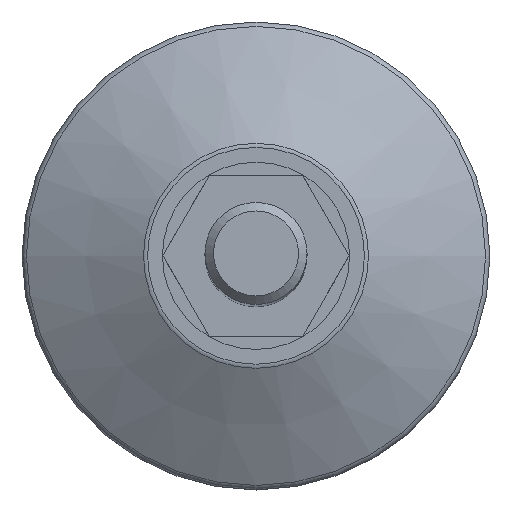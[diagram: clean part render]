
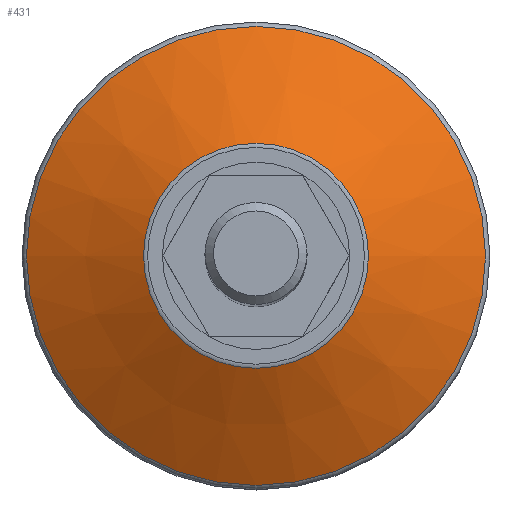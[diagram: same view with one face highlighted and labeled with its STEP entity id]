
A CAD part, top view. The second image highlights one B-rep face of the part: STEP entity #431.
In plain terms, the highlighted conical face has half-angle 61.113 degrees and reference radius 20.104 mm.
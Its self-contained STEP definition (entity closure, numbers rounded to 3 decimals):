
#78=CONICAL_SURFACE('',#489,20.104,61.113);
#93=FACE_BOUND('',#170,.T.);
#121=FACE_OUTER_BOUND('',#169,.T.);
#169=EDGE_LOOP('',(#347));
#170=EDGE_LOOP('',(#348));
#210=CIRCLE('',#461,13.226);
#226=CIRCLE('',#488,26.983);
#238=VERTEX_POINT('',#669);
#254=VERTEX_POINT('',#712);
#278=EDGE_CURVE('',#238,#238,#210,.T.);
#294=EDGE_CURVE('',#254,#254,#226,.T.);
#347=ORIENTED_EDGE('',*,*,#278,.T.);
#348=ORIENTED_EDGE('',*,*,#294,.F.);
#431=ADVANCED_FACE('',(#121,#93),#78,.T.);
#461=AXIS2_PLACEMENT_3D('',#670,#529,#530);
#488=AXIS2_PLACEMENT_3D('',#713,#583,#584);
#489=AXIS2_PLACEMENT_3D('',#714,#585,#586);
#529=DIRECTION('center_axis',(0.,0.,-1.));
#530=DIRECTION('ref_axis',(-1.,0.,0.));
#583=DIRECTION('center_axis',(0.,0.,-1.));
#584=DIRECTION('ref_axis',(-1.,0.,0.));
#585=DIRECTION('center_axis',(0.,0.,-1.));
#586=DIRECTION('ref_axis',(-1.,0.,0.));
#669=CARTESIAN_POINT('',(13.226,0.,8.876));
#670=CARTESIAN_POINT('Origin',(0.,0.,8.876));
#712=CARTESIAN_POINT('',(26.983,0.,1.285));
#713=CARTESIAN_POINT('Origin',(0.,0.,1.285));
#714=CARTESIAN_POINT('Origin',(0.,0.,5.08));
